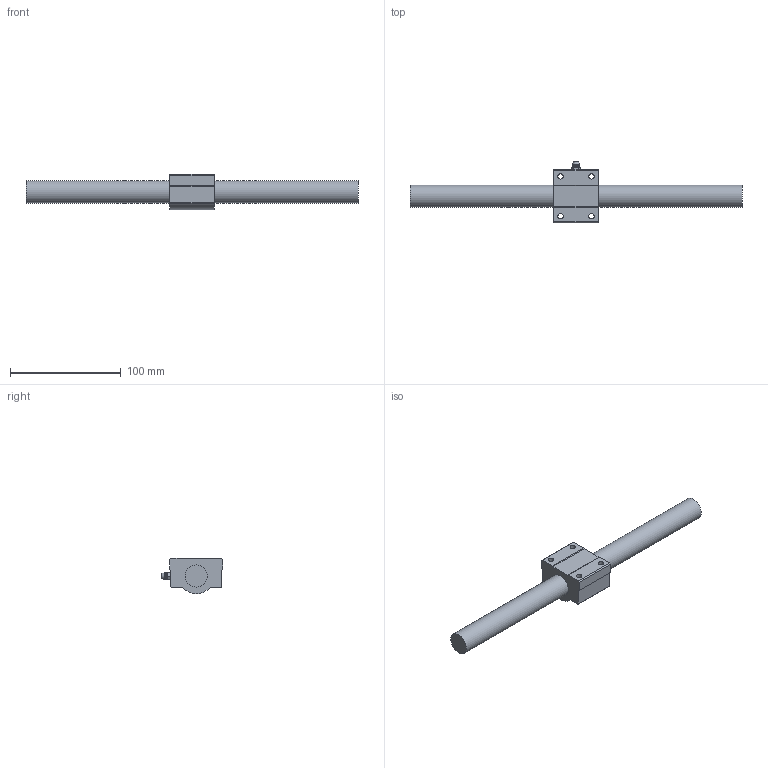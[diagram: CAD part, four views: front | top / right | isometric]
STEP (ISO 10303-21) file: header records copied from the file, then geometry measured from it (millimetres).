
FILE_DESCRIPTION((''),'2;1');
FILE_NAME('D:\製品 (図面)\カタログ用3D\ネジ関連\STEP形式\TMH\TMH20.stp','2010-06-02T15:17:25',('Tsuchiya'),(''),'Autodesk Inventor 10','Autodesk Inventor 10','');
FILE_SCHEMA(('AUTOMOTIVE_DESIGN { 1 0 10303 214 1 1 1 1 }'));
Length unit declared in the file: millimetre
Products named in the file (3): TMH20; TMH201; TMH202
Assembly tree (2 placements, depth 2):
  TMH20
    TMH201
    TMH202
Bounding box: 300 x 55.8 x 31.95 mm (x, y, z)
Volume: 132437.6 mm3; surface area: 31561.5 mm2
Topology: 2 solids, 2 shells, 61 faces, 144 edges, 91 vertices
Faces by surface type: plane 31, cone 13, bspline 8, cylinder 7, sphere 2
Full cylindrical faces by diameter (mm): 4.8 x2, 4.917 x2, 20 x2
Entity records: 1814 total; most frequent: CARTESIAN_POINT 470, DIRECTION 258, ORIENTED_EDGE 248, EDGE_CURVE 124, AXIS2_PLACEMENT_3D 100, EDGE_LOOP 92, VERTEX_POINT 88, FACE_OUTER_BOUND 61
